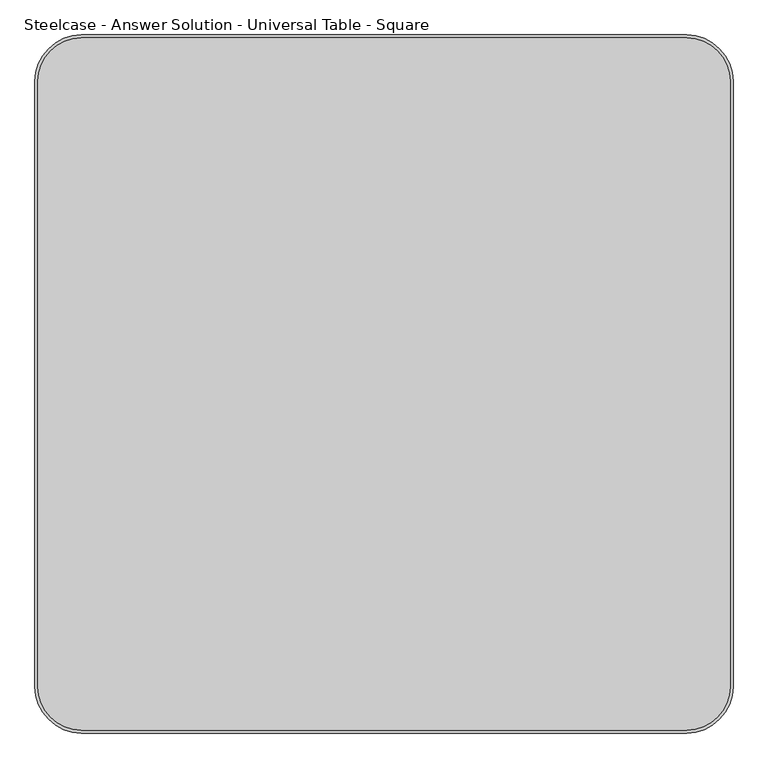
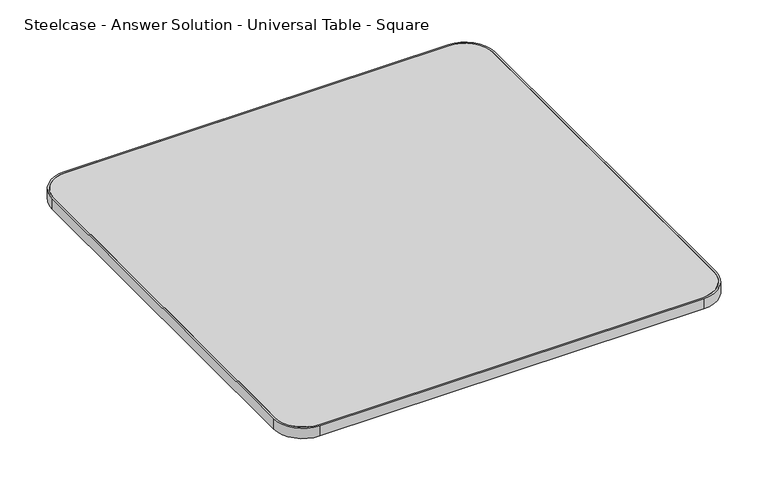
"""IFC4 building model written with IfcOpenShell, lengths in millimetres: furniture geometry, Steelcase - Answer Solution - Universal Table - Square : 48D x 48W."""

from ifc_helpers import new_model, si_unit, point, frame, frame_2d, origin, place, context, project, spatial, polyline, circle_curve, trimmed, segment, composite_curve, outline, extrude, source, transform, mapped, element, save


def steelcase_answer_solution_universal_table_square_16abb5a8(model_context):
    return source(origin(), model_context, "Body", "SweptSolid", [
        extrude(outline(composite_curve([segment(polyline([(5.08, -1137.92), (5.08, -81.28)]), True, "CONTINUOUS"), segment(trimmed(circle_curve(frame_2d((81.28, -81.28)), 76.2), [point((5.08, -81.28))], [point((81.28, -5.08))], False, "CARTESIAN"), True, "CONTINUOUS"), segment(polyline([(81.28, -5.08), (1137.92, -5.08)]), True, "CONTINUOUS"), segment(trimmed(circle_curve(frame_2d((1137.92, -81.28)), 76.2), [point((1137.92, -5.08))], [point((1214.12, -81.28))], False, "CARTESIAN"), True, "CONTINUOUS"), segment(polyline([(1214.12, -81.28), (1214.12, -1137.92)]), True, "CONTINUOUS"), segment(trimmed(circle_curve(frame_2d((1137.92, -1137.92)), 76.2), [point((1214.12, -1137.92))], [point((1137.92, -1214.12))], False, "CARTESIAN"), True, "CONTINUOUS"), segment(polyline([(1137.92, -1214.12), (81.28, -1214.12)]), True, "CONTINUOUS"), segment(trimmed(circle_curve(frame_2d((81.28, -1137.92)), 76.2), [point((81.28, -1214.12))], [point((5.08, -1137.92))], False, "CARTESIAN"), True, "CONTINUOUS")], self_intersect=False)), frame((0.0, 0.0, 668.274), z_axis=(0.0, 0.0, 1.0), x_axis=(1.0, 0.0, 0.0)), (0.0, 0.0, 1.0), 30.0990349),
        extrude(outline(composite_curve([segment(polyline([(81.28, 0.0), (1137.92, 0.0)]), True, "CONTINUOUS"), segment(trimmed(circle_curve(frame_2d((1137.92, -81.28)), 81.28), [point((1137.92, 0.0))], [point((1219.2, -81.28))], False, "CARTESIAN"), True, "CONTINUOUS"), segment(polyline([(1219.2, -81.28), (1219.2, -1137.92)]), True, "CONTINUOUS"), segment(trimmed(circle_curve(frame_2d((1137.92, -1137.92)), 81.28), [point((1219.2, -1137.92))], [point((1137.92, -1219.2))], False, "CARTESIAN"), True, "CONTINUOUS"), segment(polyline([(1137.92, -1219.2), (81.28, -1219.2)]), True, "CONTINUOUS"), segment(trimmed(circle_curve(frame_2d((81.28, -1137.92)), 81.28), [point((81.28, -1219.2))], [point((0.0, -1137.92))], False, "CARTESIAN"), True, "CONTINUOUS"), segment(polyline([(0.0, -1137.92), (0.0, -81.28)]), True, "CONTINUOUS"), segment(trimmed(circle_curve(frame_2d((81.28, -81.28)), 81.28), [point((0.0, -81.28))], [point((81.28, 0.0))], False, "CARTESIAN"), True, "CONTINUOUS")], self_intersect=False), holes=[composite_curve([segment(trimmed(circle_curve(frame_2d((81.28, -81.28)), 76.2), [point((81.28, -5.08))], [point((5.08, -81.28))], True, "CARTESIAN"), True, "CONTINUOUS"), segment(polyline([(5.08, -81.28), (5.08, -1137.92)]), True, "CONTINUOUS"), segment(trimmed(circle_curve(frame_2d((81.28, -1137.92)), 76.2), [point((5.08, -1137.92))], [point((81.28, -1214.12))], True, "CARTESIAN"), True, "CONTINUOUS"), segment(polyline([(81.28, -1214.12), (1137.92, -1214.12)]), True, "CONTINUOUS"), segment(trimmed(circle_curve(frame_2d((1137.92, -1137.92)), 76.2), [point((1137.92, -1214.12))], [point((1214.12, -1137.92))], True, "CARTESIAN"), True, "CONTINUOUS"), segment(polyline([(1214.12, -1137.92), (1214.12, -81.28)]), True, "CONTINUOUS"), segment(trimmed(circle_curve(frame_2d((1137.92, -81.28)), 76.2), [point((1214.12, -81.28))], [point((1137.92, -5.08))], True, "CARTESIAN"), True, "CONTINUOUS"), segment(polyline([(1137.92, -5.08), (81.28, -5.08)]), True, "CONTINUOUS")], self_intersect=False)]), frame((0.0, 0.0, 668.274), z_axis=(0.0, 0.0, 1.0), x_axis=(1.0, 0.0, 0.0)), (0.0, 0.0, 1.0), 30.0990349),
    ])


if __name__ == "__main__":
    model = new_model("IFC4")
    model_context = context("Model", 3, world=origin())
    ifc_project = project(units=[si_unit("LENGTHUNIT", "METRE", prefix="MILLI")], contexts=[model_context])
    site = spatial("IfcSite", under=ifc_project)
    building = spatial("IfcBuilding", under=site)
    placement = place(None, origin())
    steelcase_answer_solution_universal_table_square_shape = steelcase_answer_solution_universal_table_square_16abb5a8(model_context)
    element("IfcFurniture", 1, ObjectType="Steelcase - Answer Solution - Universal Table - Square : 48D x 48W", at=placement, inside=building, context=model_context, shape_type="MappedRepresentation", body=[
        mapped(steelcase_answer_solution_universal_table_square_shape, transform((0.0, 0.0, 0.0), x_axis=(1.0, 0.0, 0.0), y_axis=(0.0, 1.0, 0.0), z_axis=(0.0, 0.0, 1.0))),
    ])
    save(model, "model.ifc")
